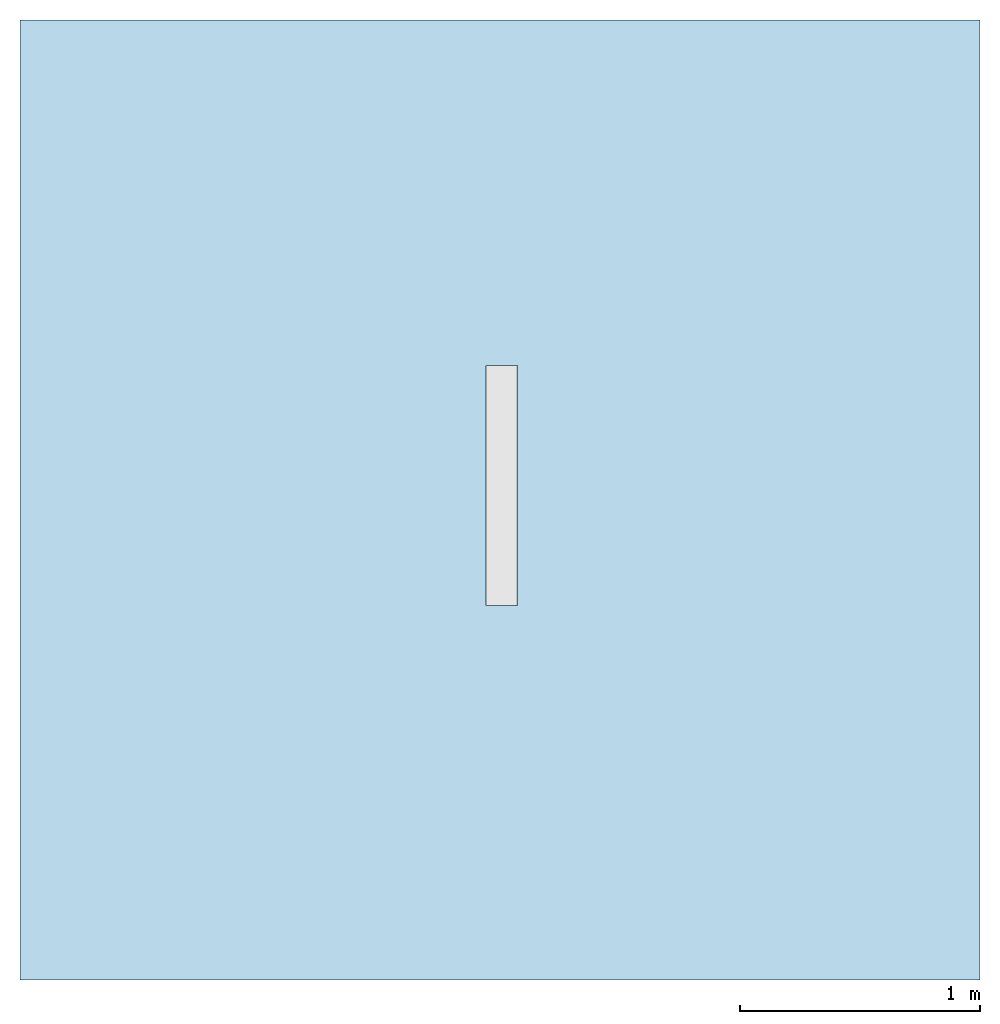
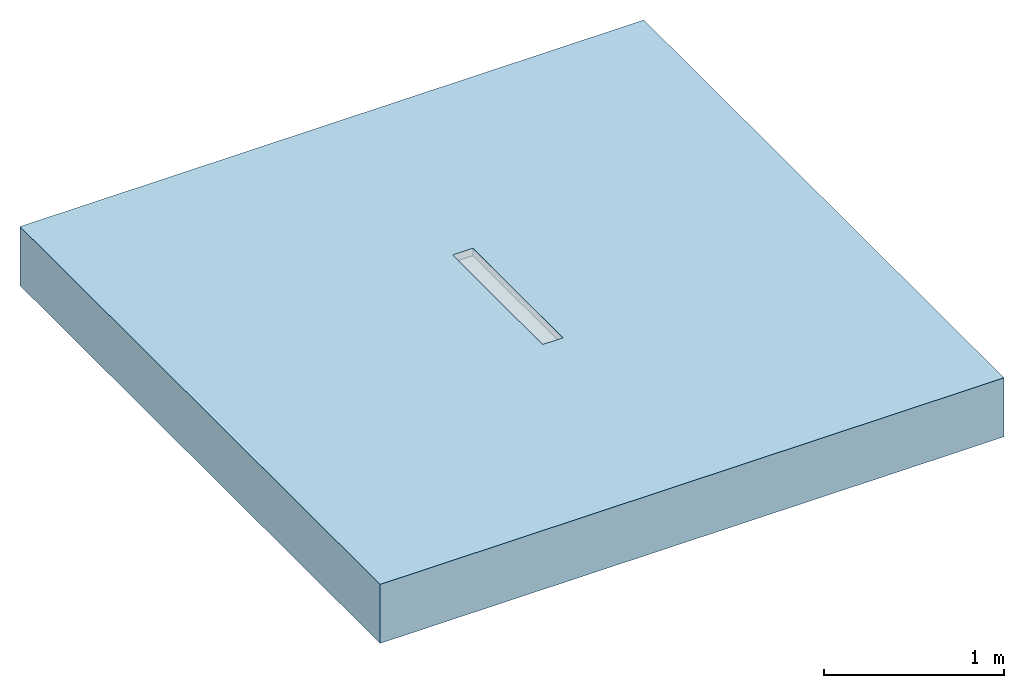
# One storey, incomplete: 1 slab.
"""IFC2X3 building model written with IfcOpenShell, lengths in millimetres."""

from ifc_helpers import new_model, entity, si_unit, converted_unit, derived_unit, direction, frame, frame_2d, origin, place, context, subcontext, project, spatial, polyline, rectangle, extrude, clip, bounded_halfspace, material, layer, layer_set, layer_usage, element, save


model = new_model("IFC2X3")

# Units and contexts
model_context = context("Model", 3, precision=1e-05, world=origin(), true_north=direction((2.0, 6.12303176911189e-17, 1.0)))
context_of_model = context(None, 3, precision=1e-05, world=origin(), true_north=direction((2.0, 6.12303176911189e-17, 1.0)))
body_context = subcontext(model_context, "Body", "Model", "MODEL_VIEW")
ifc_project = project(units=[si_unit("LENGTHUNIT", "METRE", prefix="MILLI"), si_unit("AREAUNIT", "SQUARE_METRE"), si_unit("VOLUMEUNIT", "CUBIC_METRE"), converted_unit("PLANEANGLEUNIT", "DEGREE", entity("IfcRatioMeasure", 0.0174532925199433), si_unit("PLANEANGLEUNIT", "RADIAN"), dimensions=[0, 0, 0, 0, 0, 0, 0]), si_unit("MASSUNIT", "GRAM", prefix="KILO"), si_unit("TIMEUNIT", "SECOND"), si_unit("THERMODYNAMICTEMPERATUREUNIT", "KELVIN"), derived_unit("THERMALTRANSMITTANCEUNIT", [(si_unit("MASSUNIT", "GRAM", prefix="KILO"), 1), (si_unit("THERMODYNAMICTEMPERATUREUNIT", "KELVIN"), -1), (si_unit("TIMEUNIT", "SECOND"), -3)]), derived_unit("VOLUMETRICFLOWRATEUNIT", [(si_unit("LENGTHUNIT", "METRE"), 3), (si_unit("TIMEUNIT", "SECOND"), -1)]), si_unit("POWERUNIT", "WATT")], contexts=[model_context, context_of_model])

# Site, building, storey
site_placement = place(None, origin())
site = spatial("IfcSite", under=ifc_project, at=site_placement, Name="Default", CompositionType="ELEMENT")
building_placement = place(site_placement, origin())
building = spatial("IfcBuilding", under=site, at=building_placement, CompositionType="ELEMENT")
storey_placement = place(building_placement, origin())
storey = spatial("IfcBuildingStorey", under=building, at=storey_placement, Name="Level 1", CompositionType="ELEMENT", Elevation=0.0)

# Slab
ifc_material = material(Name="Concrete, Broom Finish")
ifc_layer = layer(ifc_material, 400.0)
ifc_layer_set = layer_set([ifc_layer], Name="Floor:Generic Floor - 400mm")
ifc_layer_usage = layer_usage(ifc_layer_set, "AXIS3", "POSITIVE", 0.0)
slab_placement = place(storey_placement, origin())
element("IfcSlab", 1, at=slab_placement, inside=storey, material=ifc_layer_usage, Name="Floor:Generic Floor - 400mm", ObjectType="Floor:Generic Floor - 400mm", PredefinedType="FLOOR", context=body_context, shape_type="Clipping", body=[
    clip(extrude(rectangle(XDim=4000.0, YDim=4000.0, at=frame_2d((3.41060513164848e-13, 0.0), x_axis=(1.0, 0.0))), frame((-42.1761383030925, 2.05004766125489, 0.0), z_axis=(0.0, 0.0, -1.0), x_axis=(0.0, 1.0, 0.0)), (0.0, 0.0, 1.0), 400.0), bounded_halfspace(frame((-99.5372494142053, -437.186063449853, -50.0)), False, frame((-42.1761383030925, 2.05004766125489, 0.0), z_axis=(0.0, 0.0, -1.0), x_axis=(0.0, 1.0, 0.0)), polyline([(-439.236111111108, -57.3611111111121), (-439.236111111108, 72.6388888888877), (560.763888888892, 72.638888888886), (560.763888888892, -57.3611111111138), (-439.236111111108, -57.3611111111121)]))),
])

save(model, "model.ifc")
